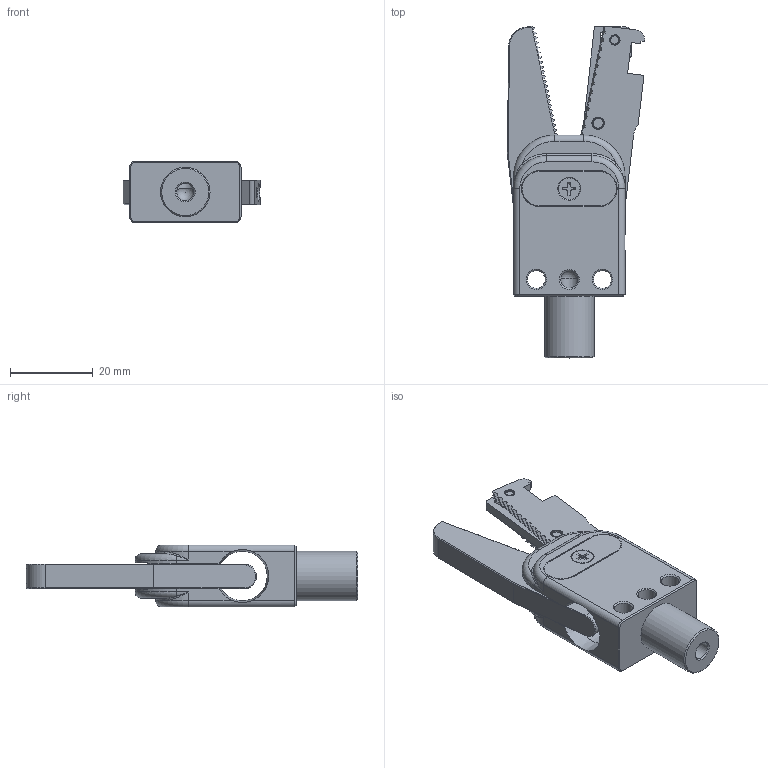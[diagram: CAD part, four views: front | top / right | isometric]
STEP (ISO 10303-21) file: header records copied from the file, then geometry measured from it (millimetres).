
FILE_DESCRIPTION(/* description */ (''),/* implementation_level */ '2;1');
FILE_NAME(/* name */ 'GR12A-12-C.stp',/* time_stamp */ '2023-03-08T11:40:07+08:00',/* author */ (''),/* organization */ (''),/* preprocessor_version */ 'ST-DEVELOPER v16',/* originating_system */ 'SIEMENS PLM Software NX 10.0',/* authorisation */ '');
FILE_SCHEMA (('AUTOMOTIVE_DESIGN { 1 0 10303 214 3 1 1 1 }'));
Length unit declared in the file: millimetre
Products named in the file (1): Admi115498B06is1
Bounding box: 33.32 x 80.42 x 15 mm (x, y, z)
Volume: 15339.4 mm3; surface area: 9723.1 mm2
Topology: 1 solids, 8 shells, 922 faces, 2313 edges, 1412 vertices
Faces by surface type: plane 751, cylinder 90, cone 54, bspline 14, torus 12, sphere 1
Full cylindrical faces by diameter (mm): 2.2 x2, 2.5 x4, 2.7 x1, 3 x5, 3.2 x2, 3.5 x1, 4.2 x2, 4.3 x3, 5.2 x1, 12 x2
Entity records: 33233 total; most frequent: CARTESIAN_POINT 5380, ORIENTED_EDGE 4474, DIRECTION 4218, EDGE_CURVE 2237, LINE 1848, VECTOR 1848, VERTEX_POINT 1386, AXIS2_PLACEMENT_3D 1185
